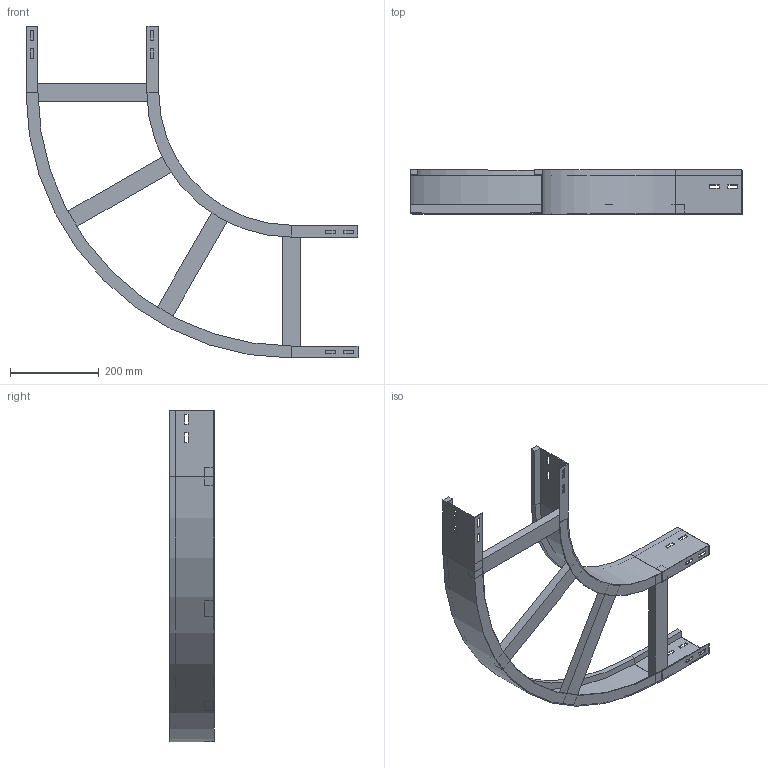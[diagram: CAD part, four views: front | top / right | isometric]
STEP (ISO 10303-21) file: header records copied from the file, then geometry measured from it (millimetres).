
FILE_DESCRIPTION (( 'STEP AP214' ), '1' );
FILE_NAME ('A2_10B3D300.step', '2025-02-21T15:22:51', ( '' ), ( '' ), 'SwSTEP 2.0', 'SolidWorks 2023', '' );
FILE_SCHEMA (( 'AUTOMOTIVE_DESIGN' ));
Length unit declared in the file: millimetre
Products named in the file (4): A2_LONGH.INTERNO 90°_H100_R300; A2_10B3D300; A2_LONGH.ESTERNO 90°_H100_R300+300; TRAVERSINO_300
Assembly tree (6 placements, depth 2):
  A2_10B3D300
    A2_LONGH.INTERNO 90°_H100_R300
    A2_LONGH.ESTERNO 90°_H100_R300+300
    TRAVERSINO_300  x4
Bounding box: 750 x 100 x 750 mm (x, y, z)
Volume: 1844174.8 mm3; surface area: 724363 mm2
Topology: 6 solids, 6 shells, 140 faces, 352 edges, 224 vertices
Faces by surface type: plane 132, cylinder 8
Entity records: 3829 total; most frequent: CARTESIAN_POINT 647, ORIENTED_EDGE 632, DIRECTION 594, EDGE_CURVE 316, VECTOR 300, LINE 300, VERTEX_POINT 200, EDGE_LOOP 154
